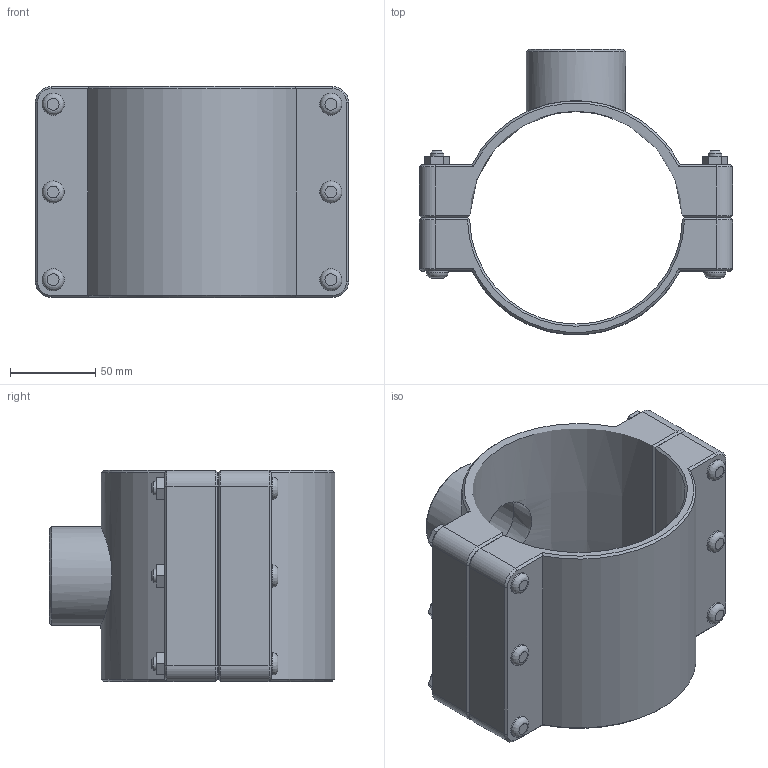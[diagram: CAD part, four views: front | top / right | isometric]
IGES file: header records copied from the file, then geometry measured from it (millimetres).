
Global section: file name: 160760125015_160860125015.ipt; native system: Autodesk Inventor 2015; preprocessor: unknown; author: KIM; date: 20170618.093552; units: millimetre
Bounding box: 184 x 167.5 x 124 mm (x, y, z)
Volume: 748079.9 mm3; surface area: 148839 mm2
Topology: 1 solids, 1 shells, 169 faces, 394 edges, 249 vertices
Faces by surface type: plane 100, cylinder 29, cone 27, revolution 13
Full cylindrical faces by diameter (mm): 8 x6, 13 x12, 58.298 x1
